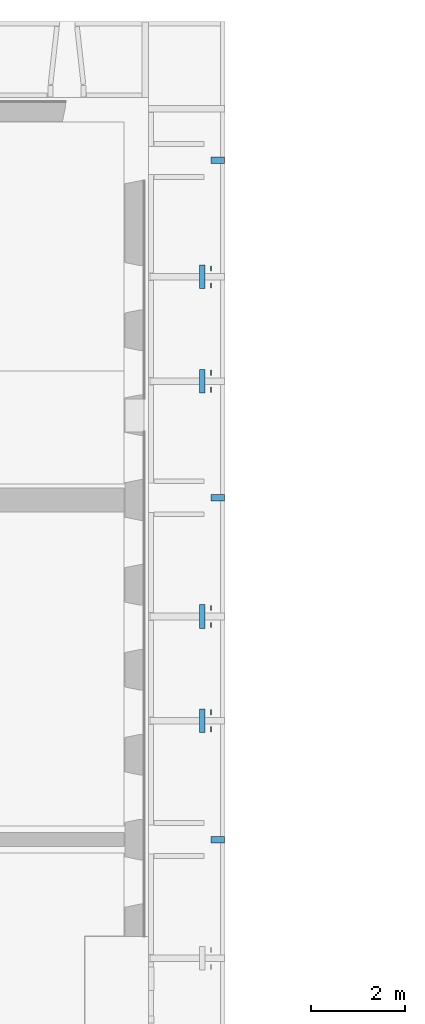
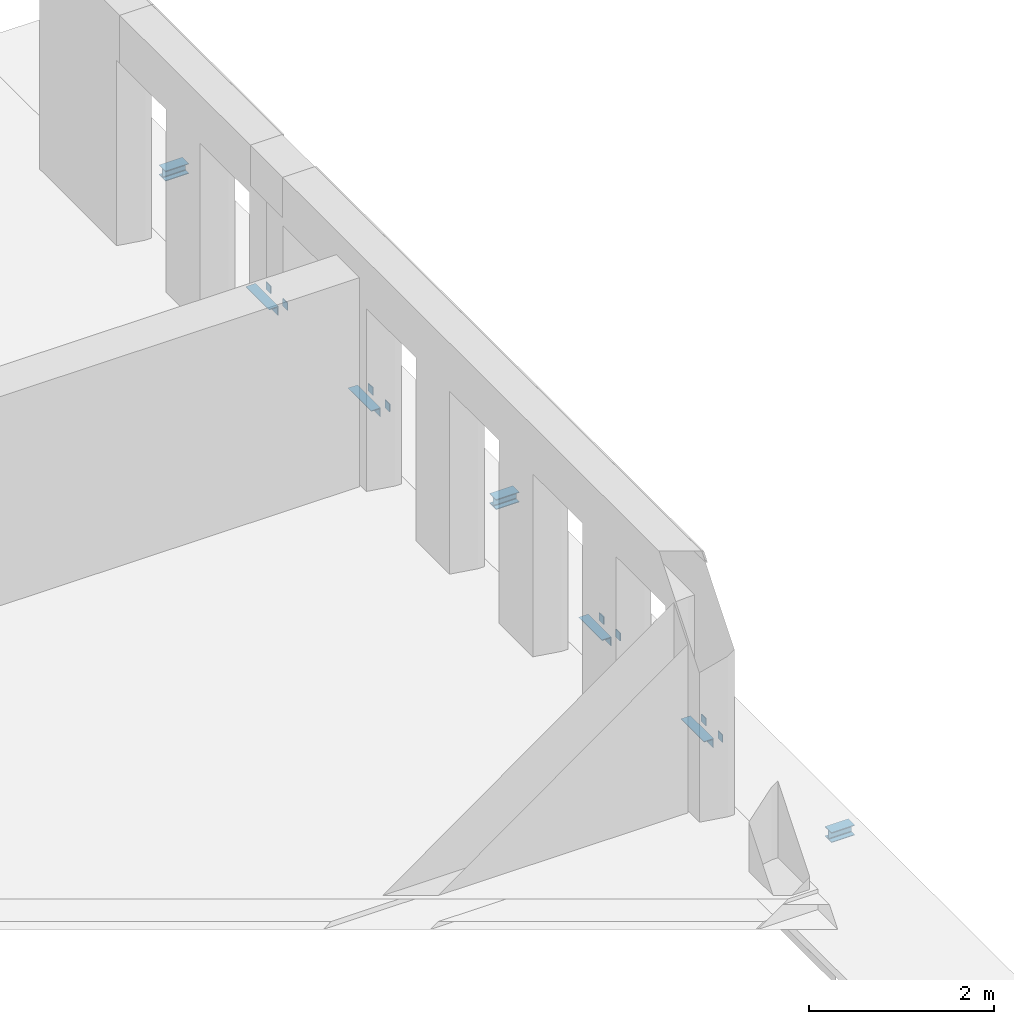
# One storey, part 17 of 27: 15 beams.
"""IFC2X3 building model written with IfcOpenShell, lengths in millimetres."""

import ifcopenshell
import ifcopenshell.guid

model = None  # the IFC model being written
_history = None  # IfcOwnerHistory: only IFC2X3 demands one
_inside = {}  # id of a spatial element -> (the spatial element, [elements in it])
_under = {}  # id of a project, library or spatial element -> (it, [spatial elements below it])
_declared = {}  # id of a project -> (the project, [libraries it declares])
_typed = {}  # id of a type object -> (the type object, [elements of that type])
_made_of = {}  # id of a material, layer set ... -> (it, [elements and type objects made of it])


def new_model(schema):
    """Start an empty IFC model of exactly this schema.

    Asked for "IFC4X3", IfcOpenShell would pick the latest addendum, in which some entities
    have other attributes; the version numbers below select the first issue.
    IFC2X3 requires an IfcOwnerHistory on every rooted entity: one is made here for all.
    """
    global model, _history
    if schema == "IFC4X3":
        model = ifcopenshell.file(schema_version=(4, 3, 0, 0))
    else:
        model = ifcopenshell.file(schema=schema)
    _inside.clear()
    _under.clear()
    _declared.clear()
    _typed.clear()
    _made_of.clear()
    _history = None
    if model.schema == "IFC2X3":
        org = make("IfcOrganization", Name="unknown")
        user = make(
            "IfcPersonAndOrganization",
            ThePerson=make("IfcPerson", FamilyName="unknown"),
            TheOrganization=org,
        )
        app = make(
            "IfcApplication",
            ApplicationDeveloper=org,
            Version="unknown",
            ApplicationFullName="unknown",
            ApplicationIdentifier="unknown",
        )
        _history = make(
            "IfcOwnerHistory",
            OwningUser=user,
            OwningApplication=app,
            ChangeAction="ADDED",
            CreationDate=0,
        )
    return model


def make(cls, **values):
    """One entity of the class cls with the attributes given. An attribute that is None is left unset."""
    return model.create_entity(
        cls, **{name: value for name, value in values.items() if value is not None}
    )


def entity(cls, *values):
    """Any entity or typed value of the class cls, its attributes in the order of the schema. None: left unset."""
    e = model.create_entity(cls)
    for i, value in enumerate(values):
        if value is not None:
            e[i] = value
    return e


def rooted(cls, **values):
    """An entity with a GlobalId (a new one), such as an element, a storey or a relation."""
    return make(cls, GlobalId=ifcopenshell.guid.new(), OwnerHistory=_history, **values)


def si_unit(unit_type, name, prefix=None):
    """IfcSIUnit, for example si_unit("LENGTHUNIT", "METRE", prefix="MILLI")."""
    return make("IfcSIUnit", UnitType=unit_type, Prefix=prefix, Name=name)


def converted_unit(unit_type, name, factor, base, dimensions=None, offset=None):
    """IfcConversionBasedUnit, such as the inch: factor (a typed value) times the base unit."""
    return make(
        "IfcConversionBasedUnit"
        if offset is None
        else "IfcConversionBasedUnitWithOffset",
        ConversionOffset=offset,
        Dimensions=None
        if dimensions is None
        else entity("IfcDimensionalExponents", *dimensions),
        UnitType=unit_type,
        Name=name,
        ConversionFactor=make(
            "IfcMeasureWithUnit", ValueComponent=factor, UnitComponent=base
        ),
    )


def derived_unit(unit_type, elements):
    """IfcDerivedUnit: a product of units, each with its exponent."""
    return make(
        "IfcDerivedUnit",
        Elements=[
            make("IfcDerivedUnitElement", Unit=unit, Exponent=power)
            for unit, power in elements
        ],
        UnitType=unit_type,
    )


def assignment(units):
    """IfcUnitAssignment: the units of a project."""
    return None if units is None else make("IfcUnitAssignment", Units=units)


def point(xyz):
    """IfcCartesianPoint."""
    return None if xyz is None else make("IfcCartesianPoint", Coordinates=xyz)


def direction(xyz):
    """IfcDirection."""
    return None if xyz is None else make("IfcDirection", DirectionRatios=xyz)


def frame(location, z_axis=None, x_axis=None):
    """IfcAxis2Placement3D, a coordinate frame: its origin and axes. An axis left out is left unset."""
    return make(
        "IfcAxis2Placement3D",
        Location=point(location),
        Axis=direction(z_axis),
        RefDirection=direction(x_axis),
    )


def frame_2d(location, x_axis=None):
    """IfcAxis2Placement2D, a coordinate frame in the plane: its origin and x axis."""
    return make(
        "IfcAxis2Placement2D", Location=point(location), RefDirection=direction(x_axis)
    )


def origin():
    """The frame at (0, 0, 0) with its axes left unset."""
    return frame((0.0, 0.0, 0.0))


def origin_2d_with_axis():
    """The frame at (0, 0) in the plane with the x axis (1, 0) written out."""
    return frame_2d((0.0, 0.0), x_axis=(1.0, 0.0))


def place(relative_to, where):
    """IfcLocalPlacement: puts the frame where relative to a parent placement (None: the world)."""
    return make(
        "IfcLocalPlacement", PlacementRelTo=relative_to, RelativePlacement=where
    )


def context(
    kind, dimensions, precision=None, world=None, true_north=None, identifier=None
):
    """IfcGeometricRepresentationContext, for example the 3D "Model" context."""
    return make(
        "IfcGeometricRepresentationContext",
        ContextIdentifier=identifier,
        ContextType=kind,
        CoordinateSpaceDimension=dimensions,
        Precision=precision,
        WorldCoordinateSystem=world,
        TrueNorth=true_north,
    )


def subcontext(parent, identifier, kind, view, scale=None):
    """IfcGeometricRepresentationSubContext, for example "Body" below "Model"."""
    return make(
        "IfcGeometricRepresentationSubContext",
        ContextIdentifier=identifier,
        ContextType=kind,
        ParentContext=parent,
        TargetScale=scale,
        TargetView=view,
    )


def project(units=None, contexts=None):
    """IfcProject with its units and contexts."""
    return rooted(
        "IfcProject",
        Name="project",
        RepresentationContexts=contexts,
        UnitsInContext=assignment(units),
    )


def spatial(cls, under=None, at=None, **own):
    """A site, building, storey or space (cls), placed at a placement, below another one or the project."""
    s = rooted(cls, ObjectPlacement=at, **own)
    if under is not None:
        _under.setdefault(under.id(), (under, []))[1].append(s)
    return s


def polyline(points):
    """IfcPolyline through the points."""
    return make("IfcPolyline", Points=[point(p) for p in points])


def circle_curve(where, radius):
    """IfcCircle in the frame where."""
    return make("IfcCircle", Position=where, Radius=radius)


def parameter(value):
    """IfcParameterValue: where a trimmed curve begins or ends, as a parameter of its basis curve."""
    return model.create_entity("IfcParameterValue", value)


def trimmed(basis, trim1, trim2, sense, master):
    """IfcTrimmedCurve: the piece of a basis curve between two trims."""
    return make(
        "IfcTrimmedCurve",
        BasisCurve=basis,
        Trim1=trim1,
        Trim2=trim2,
        SenseAgreement=sense,
        MasterRepresentation=master,
    )


def segment(curve, same_sense, transition):
    """IfcCompositeCurveSegment."""
    return make(
        "IfcCompositeCurveSegment",
        Transition=transition,
        SameSense=same_sense,
        ParentCurve=curve,
    )


def composite_curve(segments, self_intersect=None):
    """IfcCompositeCurve: segments joined end to end."""
    return make("IfcCompositeCurve", Segments=segments, SelfIntersect=self_intersect)


def profile(cls, at=None, kind="AREA", **sizes):
    """A parametric profile (cls). Its sizes go by their IFC names, for example OverallWidth=200.0."""
    return make(cls, ProfileType=kind, Position=at, **sizes)


def rectangle(**sizes):
    """IfcRectangleProfileDef."""
    return profile("IfcRectangleProfileDef", **sizes)


def i_section(**sizes):
    """IfcIShapeProfileDef."""
    return profile("IfcIShapeProfileDef", **sizes)


def outline(outer, holes=None, kind="AREA"):
    """IfcArbitraryClosedProfileDef: a profile drawn as a closed curve; with holes, ...WithVoids."""
    if holes is None:
        return make("IfcArbitraryClosedProfileDef", ProfileType=kind, OuterCurve=outer)
    return make(
        "IfcArbitraryProfileDefWithVoids",
        ProfileType=kind,
        OuterCurve=outer,
        InnerCurves=holes,
    )


def extrude(swept, where, along, depth):
    """IfcExtrudedAreaSolid: the profile swept, set in the frame where, extruded along a direction by depth."""
    return make(
        "IfcExtrudedAreaSolid",
        SweptArea=swept,
        Position=where,
        ExtrudedDirection=direction(along),
        Depth=depth,
    )


def shape(context_of_items, identifier, shape_type, items):
    """IfcShapeRepresentation: the items that make up one representation, for example the "Body"."""
    return make(
        "IfcShapeRepresentation",
        ContextOfItems=context_of_items,
        RepresentationIdentifier=identifier,
        RepresentationType=shape_type,
        Items=items,
    )


def source(mapping_origin, context_of_items, identifier, shape_type, items):
    """IfcRepresentationMap: a shape defined once, which mapped items show again and again."""
    return make(
        "IfcRepresentationMap",
        MappingOrigin=mapping_origin,
        MappedRepresentation=shape(context_of_items, identifier, shape_type, items),
    )


def transform(
    local_origin,
    x_axis=None,
    y_axis=None,
    z_axis=None,
    scale=None,
    scale2=None,
    scale3=None,
    uniform=True,
):
    """IfcCartesianTransformationOperator3D, or its non-uniform kind. x_axis, y_axis, z_axis: its Axis1, 2, 3."""
    if uniform:
        return make(
            "IfcCartesianTransformationOperator3D",
            Axis1=direction(x_axis),
            Axis2=direction(y_axis),
            LocalOrigin=point(local_origin),
            Scale=scale,
            Axis3=direction(z_axis),
        )
    return make(
        "IfcCartesianTransformationOperator3DnonUniform",
        Axis1=direction(x_axis),
        Axis2=direction(y_axis),
        LocalOrigin=point(local_origin),
        Scale=scale,
        Axis3=direction(z_axis),
        Scale2=scale2,
        Scale3=scale3,
    )


def mapped(mapping_source, mapping_target):
    """IfcMappedItem: shows the shape of a source again, moved by a transform."""
    return make(
        "IfcMappedItem", MappingSource=mapping_source, MappingTarget=mapping_target
    )


def material(Name=None, Category=None):
    """IfcMaterial."""
    return make("IfcMaterial", Name=Name, Category=Category)


def made_of(thing, what):
    """Note that an element or type object is made of a material, layer set ...; save() writes the relation."""
    if what is not None:
        _made_of.setdefault(what.id(), (what, []))[1].append(thing)
    return thing


def type_object(cls, material=None, **own):
    """A type object (cls), such as IfcWallType, which elements share."""
    return made_of(rooted(cls, **own), material)


def type_shapes(of_type, sources):
    """Give a type object the sources (RepresentationMaps) that its elements show as mapped items."""
    of_type.RepresentationMaps = sources


def element(
    cls,
    number,
    at=None,
    inside=None,
    cuts=None,
    type_object=None,
    material=None,
    context=None,
    identifier="Body",
    shape_type=None,
    held_by="IfcProductDefinitionShape",
    body=None,
    shapes=None,
    **own,
):
    """One element of the class cls, such as IfcWall. Its Tag is "e" and its number.

    at: its placement. inside: the storey or other place that contains it. cuts: it is an
    opening in that element (IfcRelVoidsElement). A single representation is given by context,
    identifier, shape_type and body (its items); several are given by shapes. held_by: the class
    of the entity that holds the representations. save() writes the other relations.
    """
    e = rooted(cls, Tag="e%d" % number, ObjectPlacement=at, **own)
    if body is not None:
        shapes = [shape(context, identifier, shape_type, body)]
    if shapes is not None:
        e.Representation = make(held_by, Representations=shapes)
    if inside is not None:
        _inside.setdefault(inside.id(), (inside, []))[1].append(e)
    if cuts is not None:
        rooted(
            "IfcRelVoidsElement", RelatingBuildingElement=cuts, RelatedOpeningElement=e
        )
    if type_object is not None:
        _typed.setdefault(type_object.id(), (type_object, []))[1].append(e)
    return made_of(e, material)


def aggregate(whole, parts):
    """IfcRelAggregates: a whole, such as a stair, and the parts it consists of."""
    return rooted("IfcRelAggregates", RelatingObject=whole, RelatedObjects=parts)


def save(model, path):
    """Write the relations noted so far, then the file.

    IfcRelAggregates (storeys below a building ...), IfcRelContainedInSpatialStructure (elements
    in a storey), IfcRelDefinesByType, IfcRelAssociatesMaterial and IfcRelDeclares: one each for
    every whole, place, type object, material and project.
    """
    for whole, parts in _under.values():
        aggregate(whole, parts)
    for where, things in _inside.values():
        rooted(
            "IfcRelContainedInSpatialStructure",
            RelatedElements=things,
            RelatingStructure=where,
        )
    for kind, things in _typed.values():
        rooted("IfcRelDefinesByType", RelatedObjects=things, RelatingType=kind)
    for what, things in _made_of.values():
        rooted("IfcRelAssociatesMaterial", RelatedObjects=things, RelatingMaterial=what)
    for by, libraries in _declared.values():
        rooted("IfcRelDeclares", RelatingContext=by, RelatedDefinitions=libraries)
    model.write(path)


model = new_model("IFC2X3")

# Units and contexts
model_context = context("Model", 3, precision=0.01, world=origin(), true_north=direction((6.12303176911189e-17, 1.0)))
body_context = subcontext(model_context, "Body", "Model", "MODEL_VIEW")
ifc_project = project(units=[si_unit("LENGTHUNIT", "METRE", prefix="MILLI"), si_unit("AREAUNIT", "SQUARE_METRE"), si_unit("VOLUMEUNIT", "CUBIC_METRE"), converted_unit("PLANEANGLEUNIT", "DEGREE", entity("IfcRatioMeasure", 0.0174532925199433), si_unit("PLANEANGLEUNIT", "RADIAN"), dimensions=[0, 0, 0, 0, 0, 0, 0]), si_unit("MASSUNIT", "GRAM", prefix="KILO"), derived_unit("MASSDENSITYUNIT", [(si_unit("MASSUNIT", "GRAM", prefix="KILO"), 1), (si_unit("LENGTHUNIT", "METRE"), -3)]), si_unit("TIMEUNIT", "SECOND"), si_unit("FREQUENCYUNIT", "HERTZ"), si_unit("THERMODYNAMICTEMPERATUREUNIT", "DEGREE_CELSIUS"), derived_unit("THERMALTRANSMITTANCEUNIT", [(si_unit("MASSUNIT", "GRAM", prefix="KILO"), 1), (si_unit("THERMODYNAMICTEMPERATUREUNIT", "KELVIN"), -1), (si_unit("TIMEUNIT", "SECOND"), -3)]), derived_unit("VOLUMETRICFLOWRATEUNIT", [(si_unit("LENGTHUNIT", "METRE"), 3), (si_unit("TIMEUNIT", "SECOND"), -1)]), si_unit("ELECTRICCURRENTUNIT", "AMPERE"), si_unit("ELECTRICVOLTAGEUNIT", "VOLT"), si_unit("POWERUNIT", "WATT"), si_unit("FORCEUNIT", "NEWTON", prefix="KILO"), si_unit("ILLUMINANCEUNIT", "LUX"), si_unit("LUMINOUSFLUXUNIT", "LUMEN"), si_unit("LUMINOUSINTENSITYUNIT", "CANDELA"), derived_unit("USERDEFINED", [(si_unit("MASSUNIT", "GRAM", prefix="KILO"), -1), (si_unit("LENGTHUNIT", "METRE"), -2), (si_unit("TIMEUNIT", "SECOND"), 3), (si_unit("LUMINOUSFLUXUNIT", "LUMEN"), 1)]), derived_unit("LINEARVELOCITYUNIT", [(si_unit("LENGTHUNIT", "METRE"), 1), (si_unit("TIMEUNIT", "SECOND"), -1)]), si_unit("PRESSUREUNIT", "PASCAL"), derived_unit("USERDEFINED", [(si_unit("LENGTHUNIT", "METRE"), -2), (si_unit("MASSUNIT", "GRAM", prefix="KILO"), 1), (si_unit("TIMEUNIT", "SECOND"), -2)])], contexts=[model_context])

# Site, building, storey
site_placement = place(None, origin())
site = spatial("IfcSite", under=ifc_project, at=site_placement, Name="Default", CompositionType="ELEMENT")
building_placement = place(site_placement, origin())
building = spatial("IfcBuilding", under=site, at=building_placement, Name="niet gebruiken", CompositionType="ELEMENT")
storey_placement = place(building_placement, frame((0.0, 0.0, 18000.0)))
storey = spatial("IfcBuildingStorey", under=building, at=storey_placement, Name="05 vijfde verdieping", CompositionType="ELEMENT", Elevation=18000.0)

# Beams
ifc_material = material(Name="NLRS_h2_staal")
beam_type_1 = type_object("IfcBeamType", Name="NLRS_28.11_SF_WPB_stalen ligger HEA_gen:ligger HEA 140", PredefinedType="BEAM")
beam_1_placement = place(storey_placement, frame((158800.0, 17500.0, -1015.0)))
element("IfcBeam", 1, at=beam_1_placement, inside=storey, type_object=beam_type_1, material=ifc_material, Name="NLRS_28.11_SF_WPB_stalen ligger HEA_gen:ligger HEA 140", ObjectType="NLRS_28.11_SF_WPB_stalen ligger HEA_gen:ligger HEA 140", context=body_context, shape_type="SweptSolid", body=[
    extrude(i_section(OverallWidth=140.000000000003, OverallDepth=133.0, WebThickness=5.49999999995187, FlangeThickness=8.49999999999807, FilletRadius=11.9999999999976, at=frame_2d((-4.33431068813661e-12, 4.33431068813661e-12), x_axis=(0.0, 1.0))), frame((0.0, 0.0, -66.5000000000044), z_axis=(1.0, 0.0, 0.0), x_axis=(0.0, 0.0, -1.0)), (0.0, 0.0, 1.0), 290.000000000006),
])
beam_2_placement = place(storey_placement, frame((158800.0, 24750.0, -1015.0)))
element("IfcBeam", 2, at=beam_2_placement, inside=storey, type_object=beam_type_1, material=ifc_material, Name="NLRS_28.11_SF_WPB_stalen ligger HEA_gen:ligger HEA 140", ObjectType="NLRS_28.11_SF_WPB_stalen ligger HEA_gen:ligger HEA 140", context=body_context, shape_type="SweptSolid", body=[
    extrude(i_section(OverallWidth=140.000000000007, OverallDepth=133.0, WebThickness=5.49999999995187, FlangeThickness=8.49999999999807, FilletRadius=12.0000000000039, at=frame_2d((-4.33431068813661e-12, 4.32720526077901e-12), x_axis=(0.0, 1.0))), frame((0.0, 0.0, -66.5000000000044), z_axis=(1.0, 0.0, 0.0), x_axis=(0.0, 0.0, -1.0)), (0.0, 0.0, 1.0), 290.000000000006),
])
beam_3_placement = place(storey_placement, frame((158800.0, 31900.0, -1015.0)))
element("IfcBeam", 3, at=beam_3_placement, inside=storey, type_object=beam_type_1, material=ifc_material, Name="NLRS_28.11_SF_WPB_stalen ligger HEA_gen:ligger HEA 140", ObjectType="NLRS_28.11_SF_WPB_stalen ligger HEA_gen:ligger HEA 140", context=body_context, shape_type="SweptSolid", body=[
    extrude(i_section(OverallWidth=140.000000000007, OverallDepth=133.0, WebThickness=5.49999999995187, FlangeThickness=8.49999999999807, FilletRadius=12.0000000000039, at=frame_2d((-4.33431068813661e-12, 0.0), x_axis=(0.0, 1.0))), frame((0.0, 0.0, -66.5000000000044), z_axis=(1.0, 0.0, 0.0), x_axis=(0.0, 0.0, -1.0)), (0.0, 0.0, 1.0), 290.000000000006),
])
beam_type_2 = type_object("IfcBeamType", Name="NLRS_28.11_SF_WPB_stalen ligger hoekprofiel gelijkzijdig_gen:ligger gelijzijdig hoekprofiel LEQU_120x120x12_!", PredefinedType="BEAM")
for number, where, z_axis, x_axis in (
    (4, (158660.0, 20250.0, -1268.0), (0.0, 0.0, 1.0), (0.0, -1.0, 0.0)),
    (5, (158660.0, 22460.0, -1268.0), (0.0, 0.0, 1.0), (0.0, -1.0, 0.0)),
    (6, (158660.0, 27450.0, -1268.0), (0.0, 0.0, 1.0), (0.0, -1.0, 0.0)),
    (7, (158660.0, 29660.0, -1268.0), (0.0, 0.0, 1.0), (0.0, -1.0, 0.0)),
):
    element("IfcBeam", number, at=place(storey_placement, frame(where, z_axis=z_axis, x_axis=x_axis)), inside=storey, type_object=beam_type_2, material=ifc_material, Name="NLRS_28.11_SF_WPB_stalen ligger hoekprofiel gelijkzijdig_gen:ligger gelijzijdig hoekprofiel LEQU_120x120x12_!", ObjectType="NLRS_28.11_SF_WPB_stalen ligger hoekprofiel gelijkzijdig_gen:ligger gelijzijdig hoekprofiel LEQU_120x120x12_!", context=body_context, shape_type="SweptSolid", body=[
        extrude(outline(composite_curve([segment(polyline([(-44.4444444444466, -75.5555555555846), (-40.4444444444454, -75.5555555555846)]), True, "CONTINUOUS"), segment(trimmed(circle_curve(frame_2d((-40.444444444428, -69.555555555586), x_axis=(0.0, -1.0)), 5.9999999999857), [parameter(0.0)], [parameter(90.0000000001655)], True, "PARAMETER"), True, "CONTINUOUS"), segment(polyline([(-34.4444444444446, -69.555555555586), (-34.4444444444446, 22.4444444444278)]), True, "CONTINUOUS"), segment(trimmed(circle_curve(frame_2d((-22.4444444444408, 22.4444444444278), x_axis=(-1.0, 0.0)), 12.000000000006), [parameter(270.000000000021)], [parameter(0.0)], True, "PARAMETER"), False, "CONTINUOUS"), segment(polyline([(-22.4444444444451, 34.4444444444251), (69.5555555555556, 34.4444444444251)]), True, "CONTINUOUS"), segment(trimmed(circle_curve(frame_2d((69.5555555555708, 40.4444444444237), x_axis=(0.0, -1.0)), 5.9999999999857), [parameter(0.0)], [parameter(90.0000000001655)], True, "PARAMETER"), True, "CONTINUOUS"), segment(polyline([(75.5555555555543, 40.4444444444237), (75.5555555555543, 44.4444444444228)]), True, "CONTINUOUS"), segment(polyline([(75.5555555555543, 44.4444444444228), (-44.4444444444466, 44.4444444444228)]), True, "CONTINUOUS"), segment(polyline([(-44.4444444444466, 44.4444444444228), (-44.4444444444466, -75.5555555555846)]), True, "CONTINUOUS")], self_intersect=False)), frame((-20.0, -24.4444444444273, 75.5555555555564), z_axis=(1.0, 0.0, 0.0), x_axis=(0.0, 0.0, -1.0)), (0.0, 0.0, 1.0), 499.999999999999),
    ])
beam_type_3 = type_object("IfcBeamType", Name="ligger stripstaal RECT_100x10 gedraaid", PredefinedType="BEAM", material=ifc_material)
shared_shape = source(origin(), body_context, "Body", "SweptSolid", [
    extrude(rectangle(XDim=100.0, YDim=9.99999999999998, at=origin_2d_with_axis()), frame((0.0, 0.0, -50.0), z_axis=(0.0, 0.0, 1.0), x_axis=(-1.0, 0.0, 0.0)), (0.0, 0.0, 1.0), 100.0),
    extrude(rectangle(XDim=100.0, YDim=9.99999999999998, at=origin_2d_with_axis()), frame((0.0, 0.0, -50.0), z_axis=(0.0, 0.0, 1.0), x_axis=(-1.0, 0.0, 0.0)), (0.0, 0.0, 1.0), 100.0),
])
type_shapes(beam_type_3, [shared_shape])
for number, where, z_axis, x_axis, name in (
    (8, (158806.0, 20200.0, -1208.0), (0.0, 0.0, 1.0), (0.0, -1.0, 0.0), "NLRS_28.11_SF_WPB_stalen ligger stripstaal_gen:ligger stripstaal RECT_100x10 gedraaid"),
    (9, (158806.0, 19840.0, -1208.0), (0.0, 0.0, 1.0), (0.0, -1.0, 0.0), "NLRS_28.11_SF_WPB_stalen ligger stripstaal_gen:ligger stripstaal RECT_100x10 gedraaid"),
    (10, (158806.0, 22410.0, -1208.0), (0.0, 0.0, 1.0), (0.0, -1.0, 0.0), "NLRS_28.11_SF_WPB_stalen ligger stripstaal_gen:ligger stripstaal RECT_100x10 gedraaid"),
    (11, (158806.0, 22050.0, -1208.0), (0.0, 0.0, 1.0), (0.0, -1.0, 0.0), "NLRS_28.11_SF_WPB_stalen ligger stripstaal_gen:ligger stripstaal RECT_100x10 gedraaid"),
    (12, (158806.0, 27400.0, -1208.0), (0.0, 0.0, 1.0), (0.0, -1.0, 0.0), "NLRS_28.11_SF_WPB_stalen ligger stripstaal_gen:ligger stripstaal RECT_100x10 gedraaid"),
    (13, (158806.0, 27040.0, -1208.0), (0.0, 0.0, 1.0), (0.0, -1.0, 0.0), "NLRS_28.11_SF_WPB_stalen ligger stripstaal_gen:ligger stripstaal RECT_100x10 gedraaid"),
    (14, (158806.0, 29610.0, -1208.0), (0.0, 0.0, 1.0), (0.0, -1.0, 0.0), "NLRS_28.11_SF_WPB_stalen ligger stripstaal_gen:ligger stripstaal RECT_100x10 gedraaid"),
    (15, (158806.0, 29250.0, -1208.0), (0.0, 0.0, 1.0), (0.0, -1.0, 0.0), "NLRS_28.11_SF_WPB_stalen ligger stripstaal_gen:ligger stripstaal RECT_100x10 gedraaid"),
):
    element("IfcBeam", number, at=place(storey_placement, frame(where, z_axis=z_axis, x_axis=x_axis)), inside=storey, type_object=beam_type_3, material=ifc_material, Name=name, ObjectType="ligger stripstaal RECT_100x10 gedraaid", context=body_context, shape_type="MappedRepresentation", body=[
        mapped(shared_shape, transform((0.0, 0.0, 0.0), scale=1.0)),
    ])

save(model, "model.ifc")
